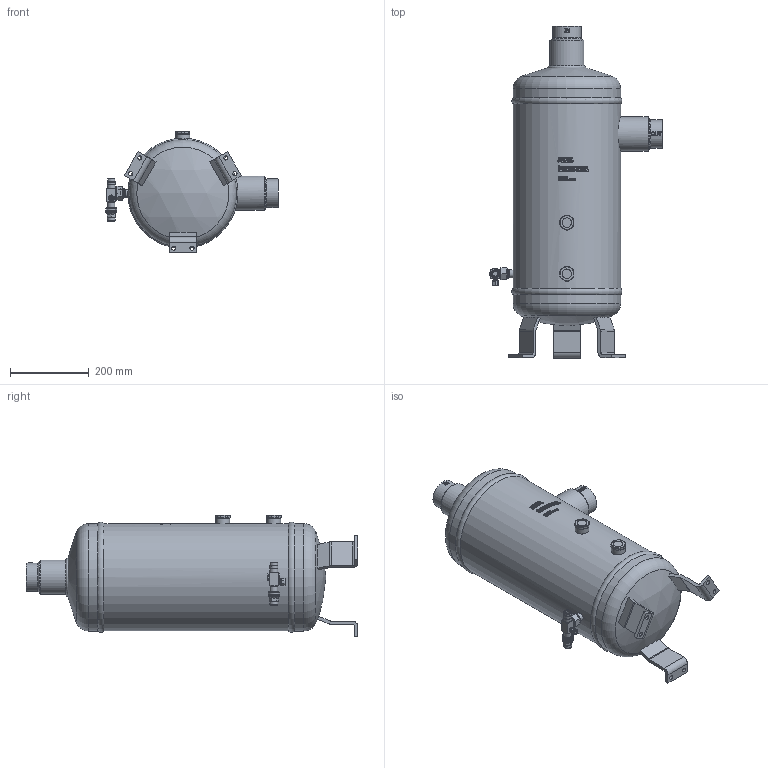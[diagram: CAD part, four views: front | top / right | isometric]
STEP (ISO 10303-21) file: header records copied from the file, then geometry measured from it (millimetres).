
FILE_DESCRIPTION(/* description */ (''),/* implementation_level */ '2;1');
FILE_NAME(/* name */ 'P:\OSR\OSR-14-80_67\OSR-14-80_67.stp',/* time_stamp */ '2017-10-05T09:03:07+02:00',/* author */ ('neufeld'),/* organization */ (''),/* preprocessor_version */ 'ST-DEVELOPER v16.1',/* originating_system */ 'Autodesk Inventor 2016',/* authorisation */ '');
FILE_SCHEMA (('AUTOMOTIVE_DESIGN { 1 0 10303 214 3 1 1 }'));
Length unit declared in the file: millimetre
Products named in the file (3): OSR-14-80_67_1; OSR-14-80_67_2; OSR-14-80_67
Assembly tree (2 placements, depth 2):
  OSR-14-80_67
    OSR-14-80_67_1
    OSR-14-80_67_2
Bounding box: 438.54 x 843.64 x 309.55 mm (x, y, z)
Volume: 37716941.4 mm3; surface area: 788224.9 mm2
Topology: 2 solids, 5 shells, 1724 faces, 4604 edges, 3041 vertices
Faces by surface type: plane 857, bspline 524, cylinder 268, cone 63, torus 10, sphere 2
Full cylindrical faces by diameter (mm): 4 x1, 6.5 x1, 9 x1, 9.4 x1, 10.1 x1, 10.5 x6, 10.72 x1, 11 x1, 12.5 x1, 13.3 x1, 13.5 x1, 14 x1, 14.2 x1, 15.75 x1, 15.87 x1, 16.15 x1, 16.7 x1, 16.8 x1, 17.3 x1, 18.3 x1, 19 x2, 19.05 x1, 19.9 x1, 20 x5, 22.5 x2, 23 x1, 23.6 x1, 24.2 x2, 25 x1, 25.2 x1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
Entity records: 63980 total; most frequent: CARTESIAN_POINT 24220, ORIENTED_EDGE 8952, DIRECTION 6953, EDGE_CURVE 4464, VERTEX_POINT 3006, AXIS2_PLACEMENT_3D 2433, LINE 2087, VECTOR 2087
